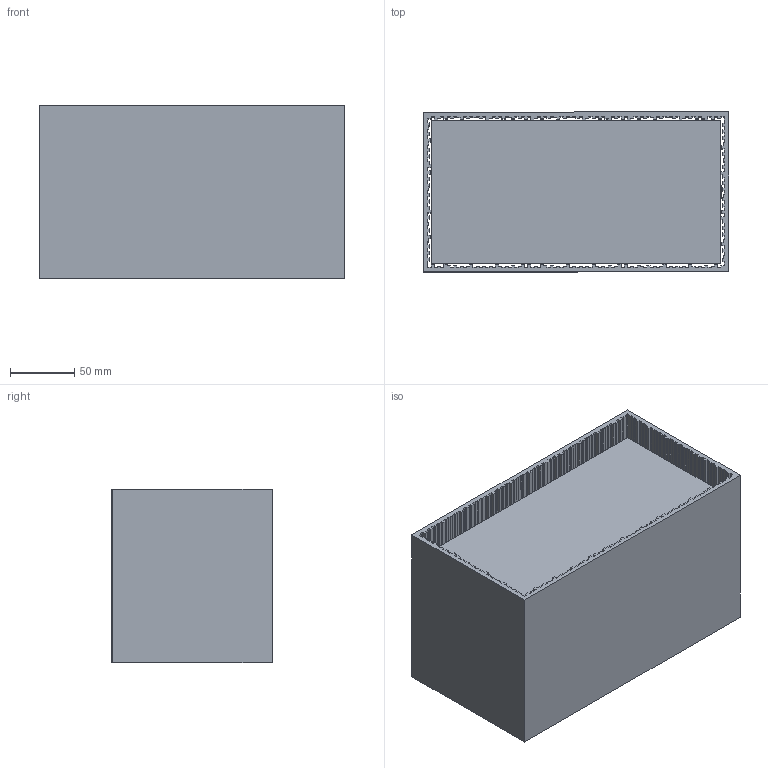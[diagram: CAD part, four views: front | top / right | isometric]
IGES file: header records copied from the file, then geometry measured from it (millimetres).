
Start section: SolidWorks IGES file using analytic representation for surfaces
Global section: file name: X:\PRODUKT\Modele 3D_WWW\_KOLEKCJE WWW\GROOVE-II-9383-9316\9316\GROOVE-II-9316.IGS; native system: SolidWorks 2021; preprocessor: SolidWorks 2021; author: gabriela.tworek; date: 220713.132150; units: millimetre
Bounding box: 237 x 124.43 x 135 mm (x, y, z)
Surface area: 385624.8 mm2 (no closed solid volume)
Topology: 0 solids, 0 shells, 1364 faces, 8026 edges, 7978 vertices
Faces by surface type: bspline 980, revolution 384
